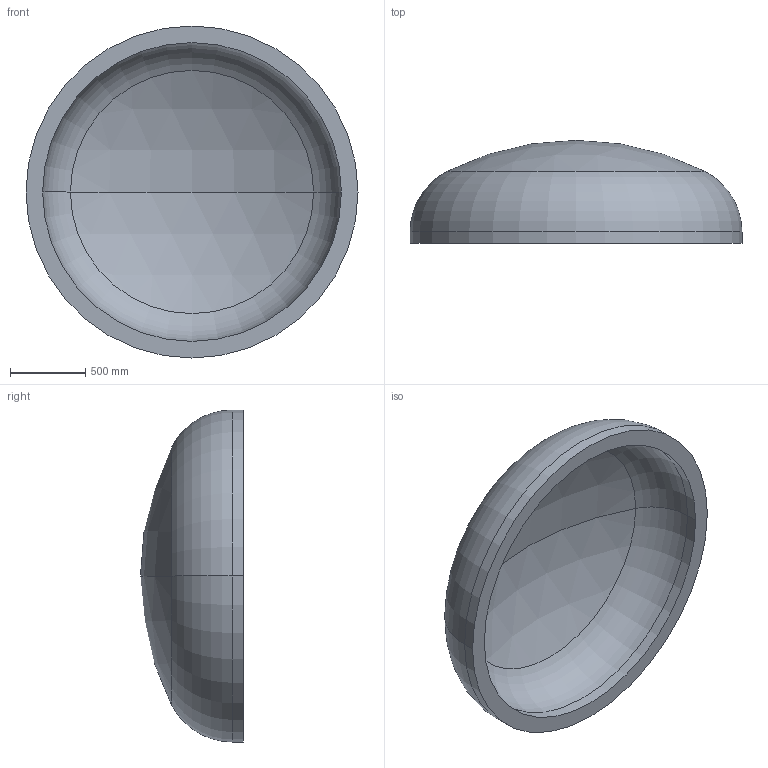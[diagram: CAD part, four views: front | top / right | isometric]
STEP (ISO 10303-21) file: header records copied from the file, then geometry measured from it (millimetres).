
FILE_DESCRIPTION (( 'STEP AP203' ), '1' );
FILE_NAME ('DIN 28013 Korbbogenform_-_Boden DIN 28013 - 2200 x 75 - I - s=110.step', '2016-07-01T14:57:14', ( '' ), ( '' ), 'SwSTEP 2.0', 'SolidWorks 2013', '' );
FILE_SCHEMA (( 'CONFIG_CONTROL_DESIGN' ));
Length unit declared in the file: millimetre
Products named in the file (1): DIN 28013 Korbbogenform_-_Boden DIN 28013 - 2200 x 75 - I - s=110
Bounding box: 2200 x 682.5 x 2200 mm (x, y, z)
Volume: 597649077.8 mm3; surface area: 11613938.1 mm2
Topology: 1 solids, 1 shells, 13 faces, 24 edges, 14 vertices
Faces by surface type: torus 4, cylinder 4, sphere 4, plane 1
Entity records: 407 total; most frequent: DIRECTION 72, CARTESIAN_POINT 52, ORIENTED_EDGE 48, AXIS2_PLACEMENT_3D 34, EDGE_CURVE 24, CIRCLE 20, VERTEX_POINT 14, EDGE_LOOP 14
